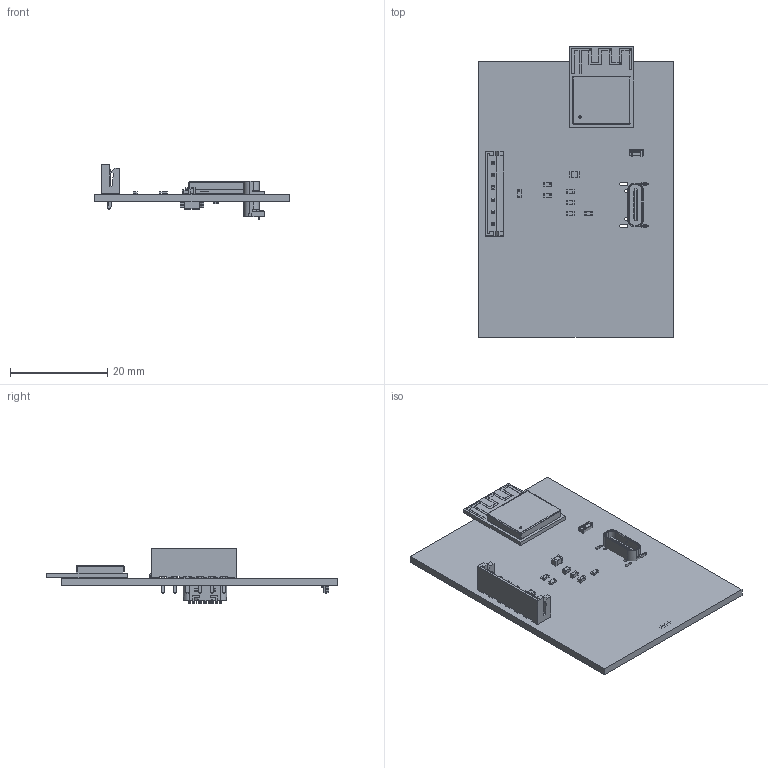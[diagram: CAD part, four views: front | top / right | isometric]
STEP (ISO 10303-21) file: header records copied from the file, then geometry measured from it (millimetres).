
FILE_DESCRIPTION(('KiCad electronic assembly'),'2;1');
FILE_NAME('Puck.step','2026-06-02T08:55:04',('Pcbnew'),('Kicad'), 'Open CASCADE STEP processor 7.9','KiCad to STEP converter','Unknown' );
FILE_SCHEMA(('AUTOMOTIVE_DESIGN { 1 0 10303 214 1 1 1 1 }'));
Length unit declared in the file: millimetre
Products named in the file (49): Puck 1; C_0603_1608Metric; R_0603_1608Metric; ESP32-C6-MINI-1; C6-MINI-1-new-footpad; DesignRootModel; uid__2428; Submodel-R0201_part_R0201; Submodel-D__3D_design_ESP32-C6_module_module_ESP32-C6-MINI-1-3D_PCB_
ESP32-C6-MINI-1_V1.0_20220927_PCB_3D_ImportedPartModels_R0201_
20210301.STEP; R0201_20210301.xtd; Submodel-L0201_part_L0201; Submodel-D__3D_design_ESP32-C6_module_module_ESP32-C6-MINI-1-3D_PCB_
ESP32-C6-MINI-1_V1.0_20220927_PCB_3D_ImportedPartModels_L0201_
20210301.STEP; L0201_20210301.xtd; Submodel-C0201_part_C0201; Submodel-D__3D_design_ESP32-C6_module_module_ESP32-C6-MINI-1-3D_PCB_
ESP32-C6-MINI-1_V1.0_20220927_PCB_3D_ImportedPartModels_C0201_
20210301.STEP; C0201_20210301.xtd; Submodel-QFN32_0P5_5_E3P7X3P2_part_QFN32_0P5_5_E3P7X3P2; Submodel-D__3D_design_ESP32-C6_module_module_ESP32-C6-MINI-1-3D_PCB_
ESP32-C6-MINI-1_V1.0_20220927_PCB_3D_ImportedPartModels_ESP32-C6_QFN32_
5X5_202306.STEP; ESP32-C6_QFN32_5X5_202306.xtd; Submodel-XTAL3225_part_XTAL3225; Submodel-D__3D_design_ESP32-C6_module_module_ESP32-C6-MINI-1-3D_PCB_
ESP32-C6-MINI-1_V1.0_20220927_PCB_3D_ImportedPartModels_XTAL3225_
20210301.STEP; XTAL3225_20210301.xtd; Submodel-SOD882_part_SOD882; Submodel-D__3D_design_ESP32-C6_module_module_ESP32-C6-MINI-1-3D_PCB_
ESP32-C6-MINI-1_V1.0_20220927_PCB_3D_ImportedPartModels_DFN1006.STEP; DFN1006.xtd; Submodel-C0402_part_C0402; Submodel-D__3D_design_ESP32-C6_module_module_ESP32-C6-MINI-1-3D_PCB_
ESP32-C6-MINI-1_V1.0_20220927_PCB_3D_ImportedPartModels_C0402_
20210301.STEP; C0402_20210301.xtd; Submodel-MINI-ANT-TYPED-H_4201249051_part_MINI-ANT-TYPED-H; Submodel-noModelForPart_MINI-ANT-TYPED-H_4201249051; placementOutline_18; placementOutline_19; placementOutline_20; placementOutline_21; placementOutline_22; placementOutline_23; placementOutline_24; MINI-ANT-TYPE-D-H-top; MINI-ANT-TYPE-D-H-buttom; C3-MINI-solder_pad ...
Assembly tree (66 placements, depth 7):
  Puck 1
    C_0603_1608Metric  x3
    R_0603_1608Metric  x4
    ESP32-C6-MINI-1
      C6-MINI-1-new-footpad
        DesignRootModel
          uid__2428
          Submodel-R0201_part_R0201  x3
            Submodel-D__3D_design_ESP32-C6_module_module_ESP32-C6-MINI-1-3D_PCB_
ESP32-C6-MINI-1_V1.0_20220927_PCB_3D_ImportedPartModels_R0201_
20210301.STEP
              R0201_20210301.xtd
          Submodel-L0201_part_L0201  x2
            Submodel-D__3D_design_ESP32-C6_module_module_ESP32-C6-MINI-1-3D_PCB_
ESP32-C6-MINI-1_V1.0_20220927_PCB_3D_ImportedPartModels_L0201_
20210301.STEP
              L0201_20210301.xtd
          Submodel-C0201_part_C0201  x10
            Submodel-D__3D_design_ESP32-C6_module_module_ESP32-C6-MINI-1-3D_PCB_
ESP32-C6-MINI-1_V1.0_20220927_PCB_3D_ImportedPartModels_C0201_
20210301.STEP
              C0201_20210301.xtd
          Submodel-QFN32_0P5_5_E3P7X3P2_part_QFN32_0P5_5_E3P7X3P2
            Submodel-D__3D_design_ESP32-C6_module_module_ESP32-C6-MINI-1-3D_PCB_
ESP32-C6-MINI-1_V1.0_20220927_PCB_3D_ImportedPartModels_ESP32-C6_QFN32_
5X5_202306.STEP
              ESP32-C6_QFN32_5X5_202306.xtd
          Submodel-XTAL3225_part_XTAL3225
            Submodel-D__3D_design_ESP32-C6_module_module_ESP32-C6-MINI-1-3D_PCB_
ESP32-C6-MINI-1_V1.0_20220927_PCB_3D_ImportedPartModels_XTAL3225_
20210301.STEP
              XTAL3225_20210301.xtd
          Submodel-SOD882_part_SOD882
            Submodel-D__3D_design_ESP32-C6_module_module_ESP32-C6-MINI-1-3D_PCB_
ESP32-C6-MINI-1_V1.0_20220927_PCB_3D_ImportedPartModels_DFN1006.STEP
              DFN1006.xtd
          Submodel-C0402_part_C0402
            Submodel-D__3D_design_ESP32-C6_module_module_ESP32-C6-MINI-1-3D_PCB_
ESP32-C6-MINI-1_V1.0_20220927_PCB_3D_ImportedPartModels_C0402_
20210301.STEP
              C0402_20210301.xtd
          Submodel-MINI-ANT-TYPED-H_4201249051_part_MINI-ANT-TYPED-H
            Submodel-noModelForPart_MINI-ANT-TYPED-H_4201249051
              placementOutline_18
              placementOutline_19
              placementOutline_20
              placementOutline_21
              placementOutline_22
              placementOutline_23
              placementOutline_24
        MINI-ANT-TYPE-D-H-top
        MINI-ANT-TYPE-D-H-buttom
        C3-MINI-solder_pad
      ShieldBox_ESP32-C3-MINI-1_V1.0_20200901
    JST_EH_B6B-EH-A_1x06_P2.50mm_Vertical
    AP2112K-3.3TRG1
    C_0805_2012Metric
    TYPE-C-31-M-12
      TYPE-C-31-M-12
    R_0402_1005Metric  x2
    MCP9808T-E_MS
    Vent_PCB
Bounding box: 40 x 59.85 x 11.3 mm (x, y, z)
Volume: 3944.2 mm3; surface area: 7201.7 mm2
Topology: 173 solids, 174 shells, 3175 faces, 7796 edges, 4946 vertices
Faces by surface type: plane 2228, cylinder 753, bspline 174, cone 20
Full cylindrical faces by diameter (mm): 0.6 x2, 0.95 x6
Entity records: 86331 total; most frequent: CARTESIAN_POINT 18680, ORIENTED_EDGE 12296, DIRECTION 11316, EDGE_CURVE 6148, LINE 4732, VECTOR 4732, VERTEX_POINT 4002, AXIS2_PLACEMENT_3D 3292
